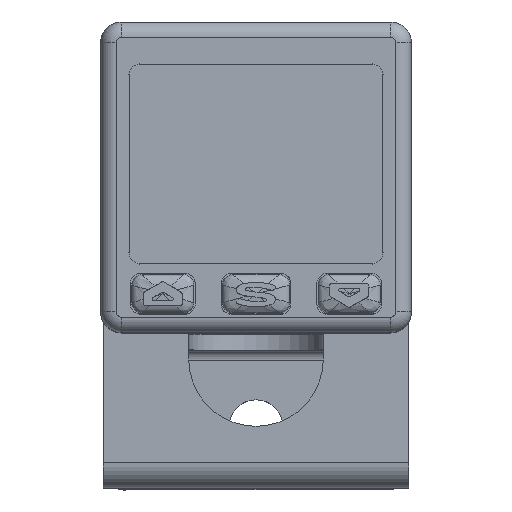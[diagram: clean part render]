
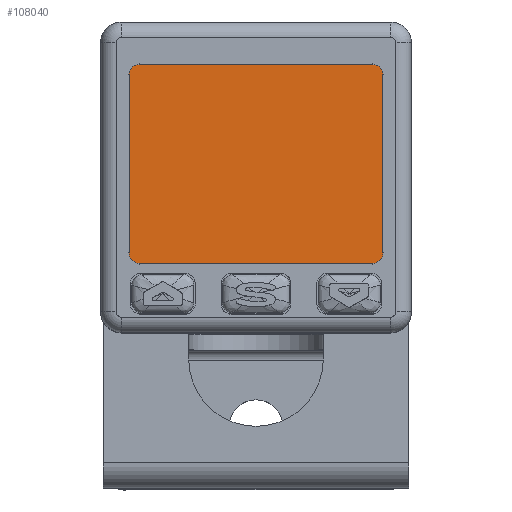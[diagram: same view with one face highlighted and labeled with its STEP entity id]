
A CAD part, top view. The second image highlights one B-rep face of the part: STEP entity #108040.
In plain terms, the highlighted planar face has unit normal (0, 0, 1).
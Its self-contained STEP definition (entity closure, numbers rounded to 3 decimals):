
#3545 = EDGE_CURVE ( 'NONE', #146185, #139456, #91440, .T. ) ;
#11695 = AXIS2_PLACEMENT_3D ( 'NONE', #118423, #177774, #163136 ) ;
#12326 = ORIENTED_EDGE ( 'NONE', *, *, #167693, .F. ) ;
#13831 = CARTESIAN_POINT ( 'NONE',  ( 12.25, -9.8, 2. ) ) ;
#14214 = CIRCLE ( 'NONE', #191317, 1. ) ;
#16591 = CARTESIAN_POINT ( 'NONE',  ( -12.25, 0., 2. ) ) ;
#19161 = VECTOR ( 'NONE', #122230, 1000. ) ;
#19334 = DIRECTION ( 'NONE',  ( 0., 0., -1. ) ) ;
#19798 = CARTESIAN_POINT ( 'NONE',  ( -12.25, 7.4, 2. ) ) ;
#24928 = DIRECTION ( 'NONE',  ( 1., 0., 0. ) ) ;
#28849 = VERTEX_POINT ( 'NONE', #164138 ) ;
#29113 = CARTESIAN_POINT ( 'NONE',  ( 11.25, 8.4, 2. ) ) ;
#30488 = CARTESIAN_POINT ( 'NONE',  ( -11.25, -10.8, 2. ) ) ;
#31993 = ORIENTED_EDGE ( 'NONE', *, *, #86528, .T. ) ;
#40989 = VERTEX_POINT ( 'NONE', #160520 ) ;
#47229 = VECTOR ( 'NONE', #120692, 1000. ) ;
#48389 = ORIENTED_EDGE ( 'NONE', *, *, #77598, .T. ) ;
#51485 = EDGE_CURVE ( 'NONE', #73940, #139456, #149878, .T. ) ;
#59051 = CARTESIAN_POINT ( 'NONE',  ( 12.25, 0., 2. ) ) ;
#61704 = EDGE_LOOP ( 'NONE', ( #48389, #12326, #117403, #120033, #74552, #122665, #31993, #70627 ) ) ;
#63096 = DIRECTION ( 'NONE',  ( 0., 0., -1. ) ) ;
#65028 = DIRECTION ( 'NONE',  ( -1., 0., 0. ) ) ;
#66818 = PLANE ( 'NONE',  #189145 ) ;
#67313 = CARTESIAN_POINT ( 'NONE',  ( 0., 8.4, 2. ) ) ;
#68734 = FACE_OUTER_BOUND ( 'NONE', #61704, .T. ) ;
#70627 = ORIENTED_EDGE ( 'NONE', *, *, #120415, .F. ) ;
#73072 = VECTOR ( 'NONE', #159904, 1000. ) ;
#73940 = VERTEX_POINT ( 'NONE', #19798 ) ;
#74251 = CARTESIAN_POINT ( 'NONE',  ( 0., -10.8, 2. ) ) ;
#74552 = ORIENTED_EDGE ( 'NONE', *, *, #51485, .T. ) ;
#74815 = CARTESIAN_POINT ( 'NONE',  ( -11.25, -9.8, 2. ) ) ;
#75211 = LINE ( 'NONE', #74251, #73072 ) ;
#77598 = EDGE_CURVE ( 'NONE', #179135, #28849, #106723, .T. ) ;
#78906 = CIRCLE ( 'NONE', #165826, 1. ) ;
#80493 = CARTESIAN_POINT ( 'NONE',  ( -12.25, -9.8, 2. ) ) ;
#86528 = EDGE_CURVE ( 'NONE', #146185, #40989, #75211, .T. ) ;
#89313 = CIRCLE ( 'NONE', #11695, 1. ) ;
#91440 = CIRCLE ( 'NONE', #125568, 1. ) ;
#98448 = DIRECTION ( 'NONE',  ( -1., 0., 0. ) ) ;
#101713 = VERTEX_POINT ( 'NONE', #29113 ) ;
#106723 = LINE ( 'NONE', #59051, #19161 ) ;
#108040 = ADVANCED_FACE ( 'NONE', ( #68734 ), #66818, .T. ) ;
#110624 = CARTESIAN_POINT ( 'NONE',  ( 0., 0., 2. ) ) ;
#117403 = ORIENTED_EDGE ( 'NONE', *, *, #124686, .T. ) ;
#118423 = CARTESIAN_POINT ( 'NONE',  ( -11.25, 7.4, 2. ) ) ;
#120033 = ORIENTED_EDGE ( 'NONE', *, *, #152331, .F. ) ;
#120415 = EDGE_CURVE ( 'NONE', #179135, #40989, #14214, .T. ) ;
#120692 = DIRECTION ( 'NONE',  ( 0., -1., 0. ) ) ;
#122230 = DIRECTION ( 'NONE',  ( 0., 1., 0. ) ) ;
#122665 = ORIENTED_EDGE ( 'NONE', *, *, #3545, .F. ) ;
#123415 = CARTESIAN_POINT ( 'NONE',  ( 11.25, -9.8, 2. ) ) ;
#124686 = EDGE_CURVE ( 'NONE', #101713, #175855, #169492, .T. ) ;
#125568 = AXIS2_PLACEMENT_3D ( 'NONE', #74815, #63096, #166214 ) ;
#133224 = DIRECTION ( 'NONE',  ( 0., 0., -1. ) ) ;
#135139 = CARTESIAN_POINT ( 'NONE',  ( 11.25, 7.4, 2. ) ) ;
#139456 = VERTEX_POINT ( 'NONE', #80493 ) ;
#146052 = CARTESIAN_POINT ( 'NONE',  ( -11.25, 8.4, 2. ) ) ;
#146185 = VERTEX_POINT ( 'NONE', #30488 ) ;
#149878 = LINE ( 'NONE', #16591, #47229 ) ;
#152331 = EDGE_CURVE ( 'NONE', #73940, #175855, #89313, .T. ) ;
#159904 = DIRECTION ( 'NONE',  ( 1., 0., 0. ) ) ;
#160520 = CARTESIAN_POINT ( 'NONE',  ( 11.25, -10.8, 2. ) ) ;
#163136 = DIRECTION ( 'NONE',  ( -1., 0., 0. ) ) ;
#164138 = CARTESIAN_POINT ( 'NONE',  ( 12.25, 7.4, 2. ) ) ;
#164338 = DIRECTION ( 'NONE',  ( -1., 0., 0. ) ) ;
#165826 = AXIS2_PLACEMENT_3D ( 'NONE', #135139, #133224, #164338 ) ;
#166214 = DIRECTION ( 'NONE',  ( -1., 0., 0. ) ) ;
#166940 = VECTOR ( 'NONE', #98448, 1000. ) ;
#167693 = EDGE_CURVE ( 'NONE', #101713, #28849, #78906, .T. ) ;
#169492 = LINE ( 'NONE', #67313, #166940 ) ;
#173793 = DIRECTION ( 'NONE',  ( 0., 0., 1. ) ) ;
#175855 = VERTEX_POINT ( 'NONE', #146052 ) ;
#177774 = DIRECTION ( 'NONE',  ( 0., 0., -1. ) ) ;
#179135 = VERTEX_POINT ( 'NONE', #13831 ) ;
#189145 = AXIS2_PLACEMENT_3D ( 'NONE', #110624, #173793, #24928 ) ;
#191317 = AXIS2_PLACEMENT_3D ( 'NONE', #123415, #19334, #65028 ) ;
